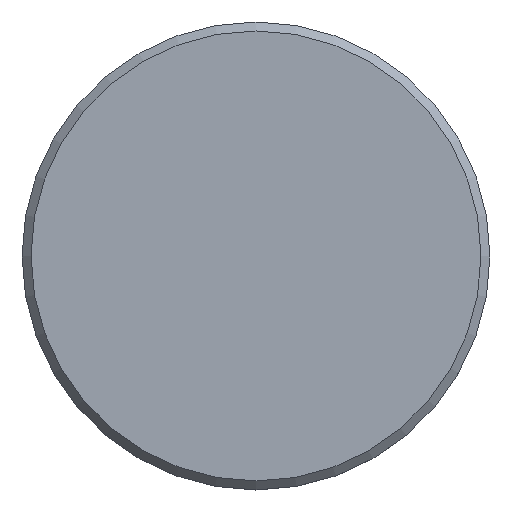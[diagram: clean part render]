
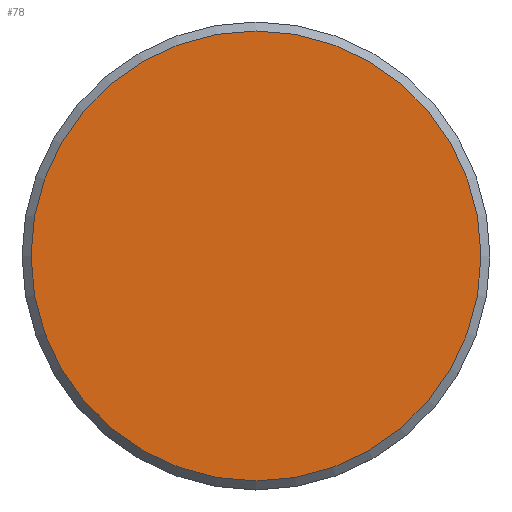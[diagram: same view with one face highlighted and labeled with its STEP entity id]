
A CAD part, top view. The second image highlights one B-rep face of the part: STEP entity #78.
In plain terms, the highlighted planar face has unit normal (0, 0, 1).
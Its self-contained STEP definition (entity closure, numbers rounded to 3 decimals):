
#8 = DIRECTION ( 'NONE',  ( 0., 0., -1. ) ) ;
#24 = PLANE ( 'NONE',  #90 ) ;
#30 = DIRECTION ( 'NONE',  ( 1., 0., 0. ) ) ;
#31 = CARTESIAN_POINT ( 'NONE',  ( 0., 0., 0. ) ) ;
#34 = FACE_OUTER_BOUND ( 'NONE', #107, .T. ) ;
#39 = CARTESIAN_POINT ( 'NONE',  ( 0., 0., 0. ) ) ;
#70 = CARTESIAN_POINT ( 'NONE',  ( 12.5, 0., 0. ) ) ;
#78 = ADVANCED_FACE ( 'NONE', ( #34 ), #24, .F. ) ;
#80 = EDGE_CURVE ( 'NONE', #82, #82, #148, .T. ) ;
#82 = VERTEX_POINT ( 'NONE', #70 ) ;
#90 = AXIS2_PLACEMENT_3D ( 'NONE', #31, #8, #93 ) ;
#93 = DIRECTION ( 'NONE',  ( -1., 0., 0. ) ) ;
#107 = EDGE_LOOP ( 'NONE', ( #151 ) ) ;
#140 = DIRECTION ( 'NONE',  ( 0., 0., 1. ) ) ;
#148 = CIRCLE ( 'NONE', #184, 12.5 ) ;
#151 = ORIENTED_EDGE ( 'NONE', *, *, #80, .T. ) ;
#184 = AXIS2_PLACEMENT_3D ( 'NONE', #39, #140, #30 ) ;
